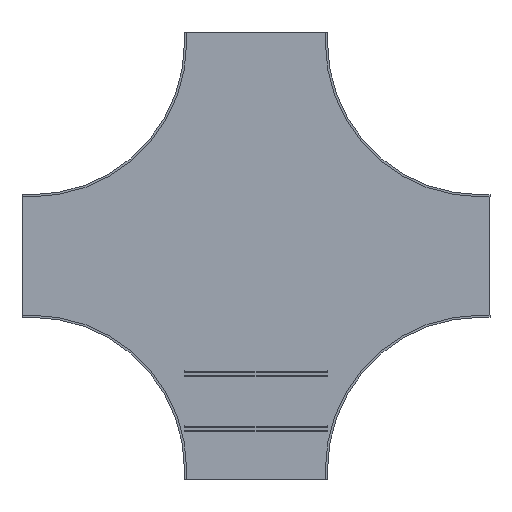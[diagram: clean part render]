
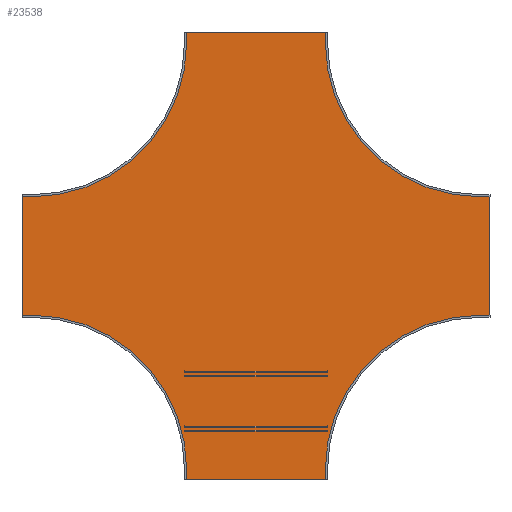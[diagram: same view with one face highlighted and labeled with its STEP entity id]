
A CAD part, front view. The second image highlights one B-rep face of the part: STEP entity #23538.
In plain terms, the highlighted planar face has unit normal (0, -1, 0).
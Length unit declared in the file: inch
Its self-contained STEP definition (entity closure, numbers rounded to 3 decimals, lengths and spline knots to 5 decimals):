
#23235=DIRECTION('',(0.,0.,1.));
#23236=VECTOR('',#23235,35.875);
#23237=CARTESIAN_POINT('',(-68.875,0.,-17.9375));
#23238=LINE('',#23237,#23236);
#23239=DIRECTION('',(1.,0.,0.));
#23240=VECTOR('',#23239,2.785);
#23241=CARTESIAN_POINT('',(-68.875,0.,17.9375));
#23242=LINE('',#23241,#23240);
#23243=CARTESIAN_POINT('',(-66.09,0.,63.09));
#23244=DIRECTION('',(0.,-1.,0.));
#23245=DIRECTION('',(0.,0.,-1.));
#23246=AXIS2_PLACEMENT_3D('',#23243,#23244,#23245);
#23248=DIRECTION('',(0.,0.,1.));
#23249=VECTOR('',#23248,2.785);
#23250=CARTESIAN_POINT('',(-20.9375,0.,63.09));
#23251=LINE('',#23250,#23249);
#23252=DIRECTION('',(1.,0.,0.));
#23253=VECTOR('',#23252,41.875);
#23254=CARTESIAN_POINT('',(-20.9375,0.,65.875));
#23255=LINE('',#23254,#23253);
#23256=DIRECTION('',(0.,0.,-1.));
#23257=VECTOR('',#23256,2.785);
#23258=CARTESIAN_POINT('',(20.9375,0.,65.875));
#23259=LINE('',#23258,#23257);
#23260=CARTESIAN_POINT('',(66.09,0.,63.09));
#23261=DIRECTION('',(0.,-1.,0.));
#23262=DIRECTION('',(-1.,0.,0.));
#23263=AXIS2_PLACEMENT_3D('',#23260,#23261,#23262);
#23265=DIRECTION('',(1.,0.,0.));
#23266=VECTOR('',#23265,2.785);
#23267=CARTESIAN_POINT('',(66.09,0.,17.9375));
#23268=LINE('',#23267,#23266);
#23269=DIRECTION('',(0.,0.,-1.));
#23270=VECTOR('',#23269,35.875);
#23271=CARTESIAN_POINT('',(68.875,0.,17.9375));
#23272=LINE('',#23271,#23270);
#23273=DIRECTION('',(-1.,0.,0.));
#23274=VECTOR('',#23273,2.785);
#23275=CARTESIAN_POINT('',(68.875,0.,-17.9375));
#23276=LINE('',#23275,#23274);
#23277=CARTESIAN_POINT('',(66.09,0.,-63.09));
#23278=DIRECTION('',(0.,-1.,0.));
#23279=DIRECTION('',(0.,0.,1.));
#23280=AXIS2_PLACEMENT_3D('',#23277,#23278,#23279);
#23282=DIRECTION('',(0.,0.,-1.));
#23283=VECTOR('',#23282,2.785);
#23284=CARTESIAN_POINT('',(20.9375,0.,-63.09));
#23285=LINE('',#23284,#23283);
#23286=DIRECTION('',(-1.,0.,0.));
#23287=VECTOR('',#23286,41.875);
#23288=CARTESIAN_POINT('',(20.9375,0.,-65.875));
#23289=LINE('',#23288,#23287);
#23290=DIRECTION('',(0.,0.,1.));
#23291=VECTOR('',#23290,2.785);
#23292=CARTESIAN_POINT('',(-20.9375,0.,-65.875));
#23293=LINE('',#23292,#23291);
#23294=CARTESIAN_POINT('',(-66.09,0.,-63.09));
#23295=DIRECTION('',(0.,-1.,0.));
#23296=DIRECTION('',(1.,0.,0.));
#23297=AXIS2_PLACEMENT_3D('',#23294,#23295,#23296);
#23299=DIRECTION('',(-1.,0.,0.));
#23300=VECTOR('',#23299,2.785);
#23301=CARTESIAN_POINT('',(-66.09,0.,-17.9375));
#23302=LINE('',#23301,#23300);
#23435=CARTESIAN_POINT('',(-68.875,0.,-17.9375));
#23436=CARTESIAN_POINT('',(-68.875,0.,17.9375));
#23437=VERTEX_POINT('',#23435);
#23438=VERTEX_POINT('',#23436);
#23439=CARTESIAN_POINT('',(-66.09,0.,17.9375));
#23440=VERTEX_POINT('',#23439);
#23441=CARTESIAN_POINT('',(-20.9375,0.,63.09));
#23442=VERTEX_POINT('',#23441);
#23443=CARTESIAN_POINT('',(-20.9375,0.,65.875));
#23444=VERTEX_POINT('',#23443);
#23445=CARTESIAN_POINT('',(20.9375,0.,65.875));
#23446=VERTEX_POINT('',#23445);
#23447=CARTESIAN_POINT('',(20.9375,0.,63.09));
#23448=VERTEX_POINT('',#23447);
#23449=CARTESIAN_POINT('',(66.09,0.,17.9375));
#23450=VERTEX_POINT('',#23449);
#23451=CARTESIAN_POINT('',(68.875,0.,17.9375));
#23452=VERTEX_POINT('',#23451);
#23453=CARTESIAN_POINT('',(68.875,0.,-17.9375));
#23454=VERTEX_POINT('',#23453);
#23455=CARTESIAN_POINT('',(66.09,0.,-17.9375));
#23456=VERTEX_POINT('',#23455);
#23457=CARTESIAN_POINT('',(20.9375,0.,-63.09));
#23458=VERTEX_POINT('',#23457);
#23459=CARTESIAN_POINT('',(20.9375,0.,-65.875));
#23460=VERTEX_POINT('',#23459);
#23461=CARTESIAN_POINT('',(-20.9375,0.,-65.875));
#23462=VERTEX_POINT('',#23461);
#23463=CARTESIAN_POINT('',(-20.9375,0.,-63.09));
#23464=VERTEX_POINT('',#23463);
#23465=CARTESIAN_POINT('',(-66.09,0.,-17.9375));
#23466=VERTEX_POINT('',#23465);
#23499=CARTESIAN_POINT('',(0.,0.,0.));
#23500=DIRECTION('',(0.,1.,0.));
#23501=DIRECTION('',(1.,0.,0.));
#23502=AXIS2_PLACEMENT_3D('',#23499,#23500,#23501);
#23503=PLANE('',#23502);
#23505=ORIENTED_EDGE('',*,*,#23504,.T.);
#23507=ORIENTED_EDGE('',*,*,#23506,.T.);
#23509=ORIENTED_EDGE('',*,*,#23508,.T.);
#23511=ORIENTED_EDGE('',*,*,#23510,.T.);
#23513=ORIENTED_EDGE('',*,*,#23512,.T.);
#23515=ORIENTED_EDGE('',*,*,#23514,.T.);
#23517=ORIENTED_EDGE('',*,*,#23516,.T.);
#23519=ORIENTED_EDGE('',*,*,#23518,.T.);
#23521=ORIENTED_EDGE('',*,*,#23520,.T.);
#23523=ORIENTED_EDGE('',*,*,#23522,.T.);
#23525=ORIENTED_EDGE('',*,*,#23524,.T.);
#23527=ORIENTED_EDGE('',*,*,#23526,.T.);
#23529=ORIENTED_EDGE('',*,*,#23528,.T.);
#23531=ORIENTED_EDGE('',*,*,#23530,.T.);
#23533=ORIENTED_EDGE('',*,*,#23532,.T.);
#23535=ORIENTED_EDGE('',*,*,#23534,.T.);
#23536=EDGE_LOOP('',(#23505,#23507,#23509,#23511,#23513,#23515,#23517,#23519,
#23521,#23523,#23525,#23527,#23529,#23531,#23533,#23535));
#23537=FACE_OUTER_BOUND('',#23536,.F.);
#23538=ADVANCED_FACE('',(#23537),#23503,.F.);
#23247=CIRCLE('',#23246,45.1525);
#23264=CIRCLE('',#23263,45.1525);
#23281=CIRCLE('',#23280,45.1525);
#23298=CIRCLE('',#23297,45.1525);
#23504=EDGE_CURVE('',#23437,#23438,#23238,.T.);
#23506=EDGE_CURVE('',#23438,#23440,#23242,.T.);
#23508=EDGE_CURVE('',#23440,#23442,#23247,.T.);
#23510=EDGE_CURVE('',#23442,#23444,#23251,.T.);
#23512=EDGE_CURVE('',#23444,#23446,#23255,.T.);
#23514=EDGE_CURVE('',#23446,#23448,#23259,.T.);
#23516=EDGE_CURVE('',#23448,#23450,#23264,.T.);
#23518=EDGE_CURVE('',#23450,#23452,#23268,.T.);
#23520=EDGE_CURVE('',#23452,#23454,#23272,.T.);
#23522=EDGE_CURVE('',#23454,#23456,#23276,.T.);
#23524=EDGE_CURVE('',#23456,#23458,#23281,.T.);
#23526=EDGE_CURVE('',#23458,#23460,#23285,.T.);
#23528=EDGE_CURVE('',#23460,#23462,#23289,.T.);
#23530=EDGE_CURVE('',#23462,#23464,#23293,.T.);
#23532=EDGE_CURVE('',#23464,#23466,#23298,.T.);
#23534=EDGE_CURVE('',#23466,#23437,#23302,.T.);
